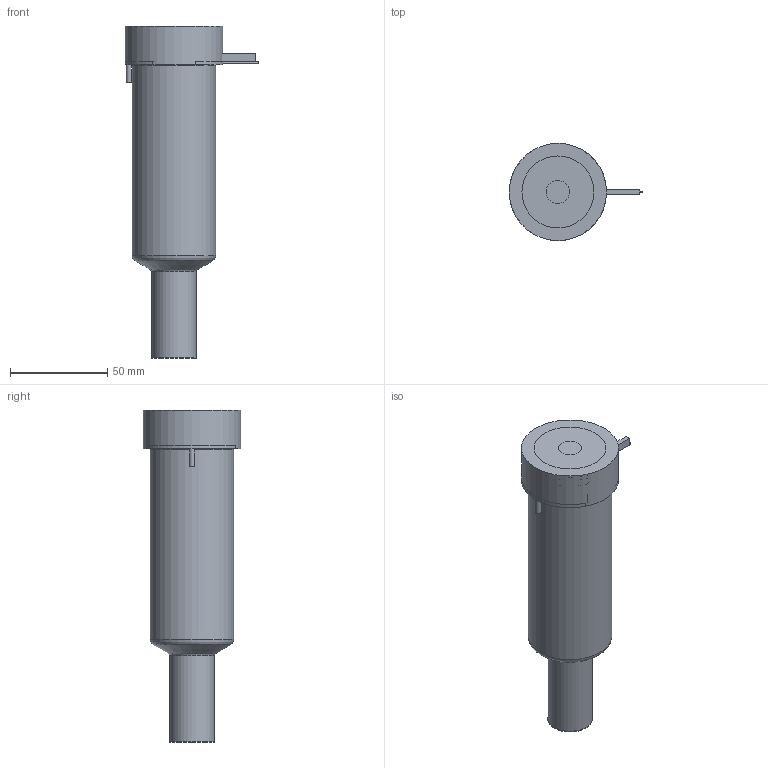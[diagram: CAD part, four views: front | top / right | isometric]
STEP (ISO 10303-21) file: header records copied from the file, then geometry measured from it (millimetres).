
FILE_DESCRIPTION(/* description */ (''),/* implementation_level */ '2;1');
FILE_NAME(/* name */ 'BXYCN27115P7F_250C_a',/* time_stamp */ '2016-02-19T14:28:09+13:00',/* author */ (''),/* organization */ (''),/* preprocessor_version */ 'ST-DEVELOPER v9',/* originating_system */ 'UGS - NX 4.0',/* authorisation */ '');
FILE_SCHEMA (('CONFIG_CONTROL_DESIGN'));
Length unit declared in the file: millimetre
Products named in the file (1): matt4BD8rt0v
Bounding box: 68.6 x 50 x 170.71 mm (x, y, z)
Volume: 372227.6 mm3; surface area: 48592 mm2
Topology: 2 solids, 2 shells, 66 faces, 149 edges, 97 vertices
Faces by surface type: plane 29, cylinder 21, torus 8, cone 6, bspline 1, sphere 1
Full cylindrical faces by diameter (mm): 1 x2, 2.5 x1, 2.7 x1, 12 x2, 22.61 x1, 22.995 x2, 27.5 x1, 38.1 x1, 43 x1, 50 x1
Entity records: 2056 total; most frequent: CARTESIAN_POINT 588, DIRECTION 299, ORIENTED_EDGE 242, AXIS2_PLACEMENT_3D 128, EDGE_CURVE 121, EDGE_LOOP 100, VERTEX_POINT 91, ADVANCED_FACE 66
